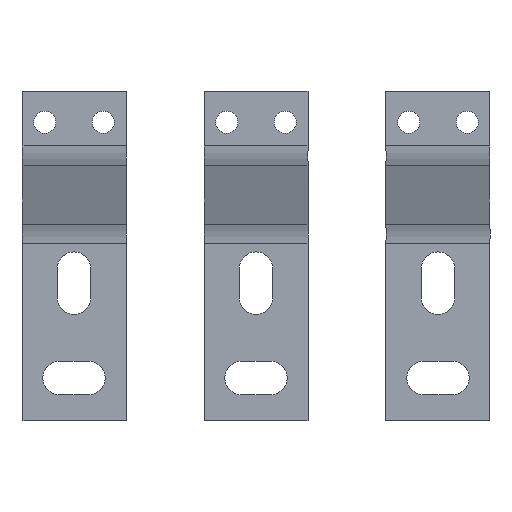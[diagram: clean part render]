
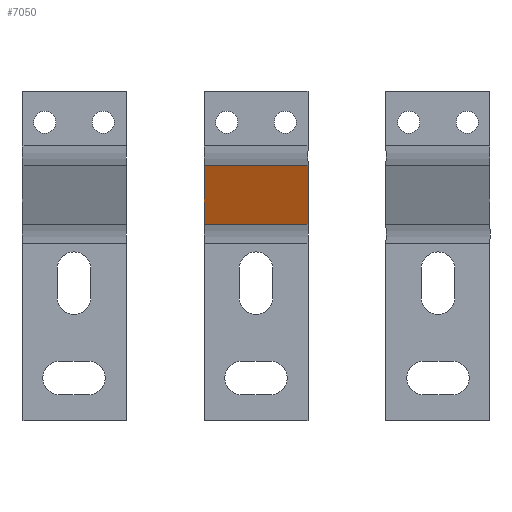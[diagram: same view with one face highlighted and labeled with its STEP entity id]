
A CAD part, top view. The second image highlights one B-rep face of the part: STEP entity #7050.
In plain terms, the highlighted planar face has unit normal (0, -0.373, 0.928).
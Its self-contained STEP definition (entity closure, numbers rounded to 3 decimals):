
#5235 = PLANE('',#5236);
#5236 = AXIS2_PLACEMENT_3D('',#5237,#5238,#5239);
#5237 = CARTESIAN_POINT('',(70.,-177.774,30.809));
#5238 = DIRECTION('',(1.,0.,0.));
#5239 = DIRECTION('',(0.,0.,1.));
#5291 = PLANE('',#5292);
#5292 = AXIS2_PLACEMENT_3D('',#5293,#5294,#5295);
#5293 = CARTESIAN_POINT('',(110.,-177.774,30.809));
#5294 = DIRECTION('',(1.,0.,0.));
#5295 = DIRECTION('',(0.,0.,1.));
#5317 = CYLINDRICAL_SURFACE('',#5318,20.);
#5318 = AXIS2_PLACEMENT_3D('',#5319,#5320,#5321);
#5319 = CARTESIAN_POINT('',(70.,-173.471,49.896));
#5320 = DIRECTION('',(1.,0.,0.));
#5321 = DIRECTION('',(0.,0.373,-0.928)
  );
#5971 = EDGE_CURVE('',#5972,#5974,#5976,.T.);
#5972 = VERTEX_POINT('',#5973);
#5973 = CARTESIAN_POINT('',(70.,-166.011,31.339));
#5974 = VERTEX_POINT('',#5975);
#5975 = CARTESIAN_POINT('',(70.,-143.344,40.452));
#5976 = SURFACE_CURVE('',#5977,(#5981,#5988),.PCURVE_S1.);
#5977 = LINE('',#5978,#5979);
#5978 = CARTESIAN_POINT('',(70.,-169.601,29.896));
#5979 = VECTOR('',#5980,1.);
#5980 = DIRECTION('',(0.,0.928,0.373)
  );
#5981 = PCURVE('',#5235,#5982);
#5982 = DEFINITIONAL_REPRESENTATION('',(#5983),#5987);
#5983 = LINE('',#5984,#5985);
#5984 = CARTESIAN_POINT('',(-0.914,-8.172));
#5985 = VECTOR('',#5986,1.);
#5986 = DIRECTION('',(0.373,-0.928));
#5987 = ( GEOMETRIC_REPRESENTATION_CONTEXT(2) 
PARAMETRIC_REPRESENTATION_CONTEXT() REPRESENTATION_CONTEXT('2D SPACE',''
  ) );
#5988 = PCURVE('',#5989,#5994);
#5989 = PLANE('',#5990);
#5990 = AXIS2_PLACEMENT_3D('',#5991,#5992,#5993);
#5991 = CARTESIAN_POINT('',(70.,-169.601,29.896));
#5992 = DIRECTION('',(0.,-0.373,0.928
    ));
#5993 = DIRECTION('',(0.,0.928,0.373)
  );
#5994 = DEFINITIONAL_REPRESENTATION('',(#5995),#5999);
#5995 = LINE('',#5996,#5997);
#5996 = CARTESIAN_POINT('',(0.,0.));
#5997 = VECTOR('',#5998,1.);
#5998 = DIRECTION('',(1.,0.));
#5999 = ( GEOMETRIC_REPRESENTATION_CONTEXT(2) 
PARAMETRIC_REPRESENTATION_CONTEXT() REPRESENTATION_CONTEXT('2D SPACE',''
  ) );
#6267 = CYLINDRICAL_SURFACE('',#6268,20.);
#6268 = AXIS2_PLACEMENT_3D('',#6269,#6270,#6271);
#6269 = CARTESIAN_POINT('',(70.,-135.883,21.896));
#6270 = DIRECTION('',(1.,0.,0.));
#6271 = DIRECTION('',(0.,-0.373,0.928
    ));
#6285 = VERTEX_POINT('',#6286);
#6286 = CARTESIAN_POINT('',(110.,-166.011,31.339));
#6312 = EDGE_CURVE('',#5972,#6285,#6313,.T.);
#6313 = SURFACE_CURVE('',#6314,(#6318,#6325),.PCURVE_S1.);
#6314 = LINE('',#6315,#6316);
#6315 = CARTESIAN_POINT('',(70.,-166.011,31.339));
#6316 = VECTOR('',#6317,1.);
#6317 = DIRECTION('',(1.,0.,0.));
#6318 = PCURVE('',#5317,#6319);
#6319 = DEFINITIONAL_REPRESENTATION('',(#6320),#6324);
#6320 = LINE('',#6321,#6322);
#6321 = CARTESIAN_POINT('',(-0.,0.));
#6322 = VECTOR('',#6323,1.);
#6323 = DIRECTION('',(-0.,1.));
#6324 = ( GEOMETRIC_REPRESENTATION_CONTEXT(2) 
PARAMETRIC_REPRESENTATION_CONTEXT() REPRESENTATION_CONTEXT('2D SPACE',''
  ) );
#6325 = PCURVE('',#5989,#6326);
#6326 = DEFINITIONAL_REPRESENTATION('',(#6327),#6331);
#6327 = LINE('',#6328,#6329);
#6328 = CARTESIAN_POINT('',(3.87,0.));
#6329 = VECTOR('',#6330,1.);
#6330 = DIRECTION('',(0.,-1.));
#6331 = ( GEOMETRIC_REPRESENTATION_CONTEXT(2) 
PARAMETRIC_REPRESENTATION_CONTEXT() REPRESENTATION_CONTEXT('2D SPACE',''
  ) );
#6385 = EDGE_CURVE('',#6285,#6386,#6388,.T.);
#6386 = VERTEX_POINT('',#6387);
#6387 = CARTESIAN_POINT('',(110.,-143.344,40.452));
#6388 = SURFACE_CURVE('',#6389,(#6393,#6400),.PCURVE_S1.);
#6389 = LINE('',#6390,#6391);
#6390 = CARTESIAN_POINT('',(110.,-169.601,29.896));
#6391 = VECTOR('',#6392,1.);
#6392 = DIRECTION('',(0.,0.928,0.373)
  );
#6393 = PCURVE('',#5291,#6394);
#6394 = DEFINITIONAL_REPRESENTATION('',(#6395),#6399);
#6395 = LINE('',#6396,#6397);
#6396 = CARTESIAN_POINT('',(-0.914,-8.172));
#6397 = VECTOR('',#6398,1.);
#6398 = DIRECTION('',(0.373,-0.928));
#6399 = ( GEOMETRIC_REPRESENTATION_CONTEXT(2) 
PARAMETRIC_REPRESENTATION_CONTEXT() REPRESENTATION_CONTEXT('2D SPACE',''
  ) );
#6400 = PCURVE('',#5989,#6401);
#6401 = DEFINITIONAL_REPRESENTATION('',(#6402),#6406);
#6402 = LINE('',#6403,#6404);
#6403 = CARTESIAN_POINT('',(0.,-40.));
#6404 = VECTOR('',#6405,1.);
#6405 = DIRECTION('',(1.,0.));
#6406 = ( GEOMETRIC_REPRESENTATION_CONTEXT(2) 
PARAMETRIC_REPRESENTATION_CONTEXT() REPRESENTATION_CONTEXT('2D SPACE',''
  ) );
#7050 = ADVANCED_FACE('',(#7051),#5989,.T.);
#7051 = FACE_BOUND('',#7052,.T.);
#7052 = EDGE_LOOP('',(#7053,#7054,#7055,#7056));
#7053 = ORIENTED_EDGE('',*,*,#5971,.F.);
#7054 = ORIENTED_EDGE('',*,*,#6312,.T.);
#7055 = ORIENTED_EDGE('',*,*,#6385,.T.);
#7056 = ORIENTED_EDGE('',*,*,#7057,.F.);
#7057 = EDGE_CURVE('',#5974,#6386,#7058,.T.);
#7058 = SURFACE_CURVE('',#7059,(#7063,#7070),.PCURVE_S1.);
#7059 = LINE('',#7060,#7061);
#7060 = CARTESIAN_POINT('',(70.,-143.344,40.452));
#7061 = VECTOR('',#7062,1.);
#7062 = DIRECTION('',(1.,0.,0.));
#7063 = PCURVE('',#5989,#7064);
#7064 = DEFINITIONAL_REPRESENTATION('',(#7065),#7069);
#7065 = LINE('',#7066,#7067);
#7066 = CARTESIAN_POINT('',(28.3,0.));
#7067 = VECTOR('',#7068,1.);
#7068 = DIRECTION('',(0.,-1.));
#7069 = ( GEOMETRIC_REPRESENTATION_CONTEXT(2) 
PARAMETRIC_REPRESENTATION_CONTEXT() REPRESENTATION_CONTEXT('2D SPACE',''
  ) );
#7070 = PCURVE('',#6267,#7071);
#7071 = DEFINITIONAL_REPRESENTATION('',(#7072),#7076);
#7072 = LINE('',#7073,#7074);
#7073 = CARTESIAN_POINT('',(-0.,0.));
#7074 = VECTOR('',#7075,1.);
#7075 = DIRECTION('',(-0.,1.));
#7076 = ( GEOMETRIC_REPRESENTATION_CONTEXT(2) 
PARAMETRIC_REPRESENTATION_CONTEXT() REPRESENTATION_CONTEXT('2D SPACE',''
  ) );
